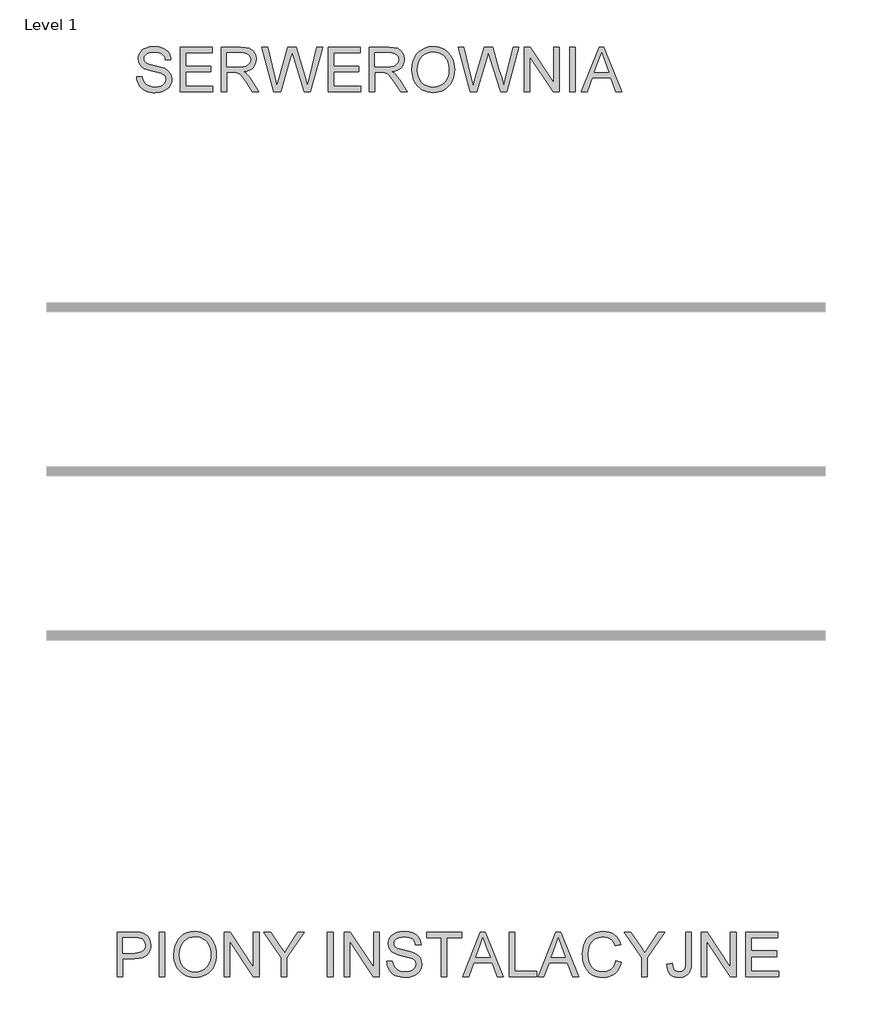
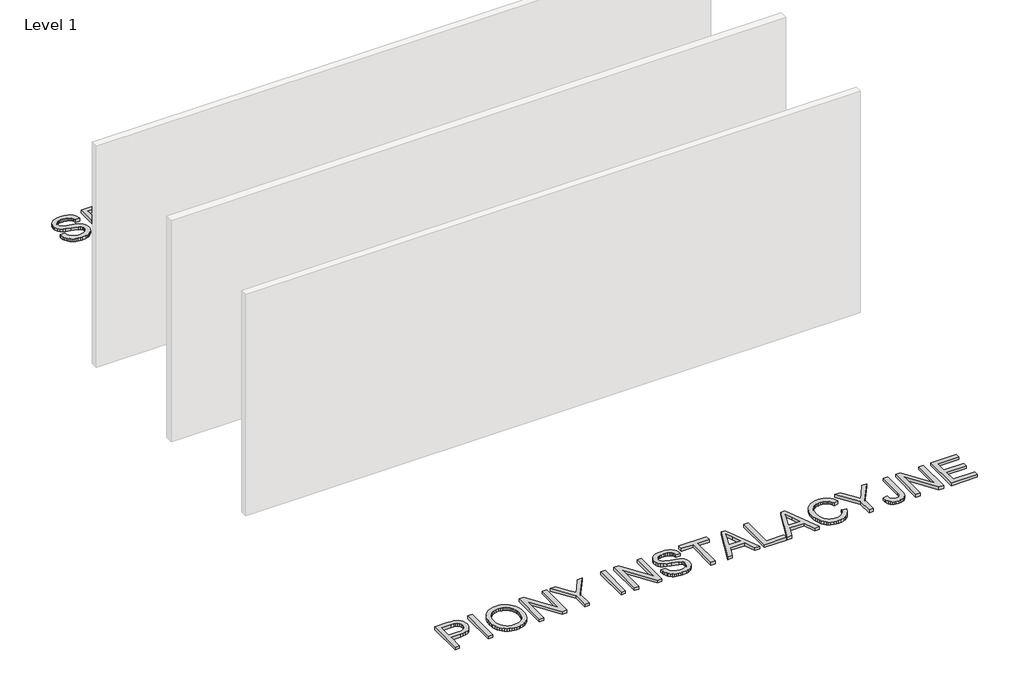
# One storey, part 2 of 4: 2 proxies.
"""IFC4 building model written with IfcOpenShell, lengths in millimetres."""

from ifc_helpers import new_model, si_unit, origin, origin_with_axes, place, context, project, spatial, polyline, outline, extrude, element, save

model = new_model("IFC4")

# Units and contexts
model_context = context("Model", 3, world=origin())
ifc_project = project(units=[si_unit("LENGTHUNIT", "METRE", prefix="MILLI")], contexts=[model_context])

# Site, building, storey
site = spatial("IfcSite", under=ifc_project)
building = spatial("IfcBuilding", under=site)
storey = spatial("IfcBuildingStorey", under=building, Name="Level 1", Elevation=0.0)

# Proxies
placement = place(None, origin())
element("IfcBuildingElementProxy", 1, Name="600mm Arial", ObjectType="600mm Arial", at=placement, inside=storey, context=model_context, shape_type="SweptSolid", body=[
    extrude(outline(polyline([(-1552.2464227, -16589.5897996), (-1476.9041901, -16589.5897996), (-1468.2589632, -16631.3995884), (-1452.6239784, -16665.0056087), (-1428.2334021, -16691.6770533), (-1393.3214008, -16712.6831152), (-1350.6470894, -16726.3131432), (-1302.9695828, -16730.8564858), (-1260.9942471, -16727.4167891), (-1224.2428358, -16717.0976992), (-1194.4627883, -16700.7637386), (-1173.4015441, -16679.2794301), (-1160.8751622, -16654.6129423), (-1156.6997015, -16628.7324439), (-1159.8266985, -16603.5141332), (-1169.2076893, -16581.7171249), (-1188.2639767, -16563.1206901), (-1220.4168631, -16547.5040994), (-1330.119274, -16518.7357274), (-1402.1321746, -16499.6978341), (-1448.2093945, -16481.5796459), (-1485.7149639, -16456.2325764), (-1512.294438, -16425.5144298), (-1528.1317579, -16390.0873937), (-1533.4108646, -16350.6136556), (-1531.7783882, -16328.1774524), (-1526.8809592, -16306.4862103), (-1518.7185774, -16285.5399292), (-1507.2912429, -16265.3386091), (-1492.7277144, -16246.705386), (-1475.1567506, -16230.463396), (-1454.5783515, -16216.6126388), (-1430.9925171, -16205.1531147), (-1377.9807216, -16189.7572532), (-1319.3035434, -16184.6252994), (-1255.7335346, -16189.9963765), (-1200.1097769, -16206.1096079), (-1175.774383, -16218.111758), (-1154.4188331, -16232.6338997), (-1136.0431275, -16249.6760332), (-1120.647266, -16269.2381582), (-1108.3508103, -16290.7500579), (-1099.2733221, -16313.6415151), (-1093.4148013, -16337.9125297), (-1090.775248, -16363.5631018), (-1166.1174806, -16363.5631018), (-1171.1574639, -16339.5220134), (-1179.9498436, -16318.607922), (-1192.4946196, -16300.8208275), (-1208.791792, -16286.16073), (-1229.1448634, -16274.7012059), (-1253.8573364, -16266.5158315), (-1282.9292111, -16261.6046068), (-1316.3604874, -16259.967532), (-1350.8586215, -16261.5862127), (-1380.3351664, -16266.4422551), (-1404.790122, -16274.535659), (-1424.2234884, -16285.8664244), (-1439.0307387, -16299.4872553), (-1449.6073461, -16314.4508555), (-1455.9533105, -16330.7572249), (-1458.068632, -16348.4063636), (-1456.5695128, -16363.590693), (-1452.0721554, -16377.3586766), (-1444.5765598, -16389.7103146), (-1434.0827259, -16400.6456069), (-1417.5648243, -16411.0014851), (-1391.5555672, -16421.4677278), (-1311.0629867, -16442.7313072), (-1227.9952322, -16462.9280287), (-1177.7425516, -16480.5495763), (-1134.7923287, -16507.8832085), (-1118.1870551, -16523.9504547), (-1104.8283402, -16541.6179875), (-1094.559834, -16560.7938365), (-1087.2251867, -16581.3860312), (-1081.3574689, -16626.8194576), (-1083.0451275, -16650.3868979), (-1088.1081035, -16673.2645594), (-1096.5463968, -16695.4524423), (-1108.3600073, -16716.9505464), (-1123.3420016, -16736.9265387), (-1141.2854459, -16754.5480863), (-1162.1903403, -16769.8151891), (-1186.0566847, -16782.7278471), (-1212.190102, -16792.9963533), (-1239.8962147, -16800.3310006), (-1300.0265268, -16806.1987184), (-1338.5667643, -16804.6168258), (-1373.8420492, -16799.8711481), (-1405.8523813, -16791.9616852), (-1434.5977607, -16780.8884371), (-1460.2529313, -16766.6330098), (-1482.9926371, -16749.1770092), (-1502.8168781, -16728.5204351), (-1519.7256543, -16704.6632877), (-1533.3464852, -16678.3781192), (-1543.3068902, -16650.4374816), (-1549.6068694, -16620.8413751), (-1552.2464227, -16589.5897996)])), origin_with_axes(), (0.0, 0.0, 1.0), 50.0),
    extrude(outline(polyline([(-968.34412, -16796.7809393), (-968.34412, -16194.0430784), (-535.1262825, -16194.0430784), (-535.1262825, -16269.385311), (-893.0018874, -16269.385311), (-893.0018874, -16448.3231135), (-553.9618406, -16448.3231135), (-553.9618406, -16523.6653461), (-893.0018874, -16523.6653461), (-893.0018874, -16721.4387067), (-525.7085034, -16721.4387067), (-525.7085034, -16796.7809393), (-968.34412, -16796.7809393)])), origin_with_axes(), (0.0, 0.0, 1.0), 50.0),
    extrude(outline(polyline([(-412.6951545, -16796.7809393), (-412.6951545, -16194.0430784), (-152.9704659, -16194.0430784), (-83.1648573, -16198.1081745), (-32.3787478, -16210.3034626), (-12.7798346, -16219.9971532), (4.7405455, -16232.8178407), (20.1823922, -16248.7655252), (33.5457057, -16267.8402067), (44.3292467, -16289.016414), (52.0317759, -16311.2686762), (56.6532935, -16334.5969932), (58.1937994, -16359.0013651), (55.641618, -16389.958635), (47.985074, -16418.3775191), (35.2241673, -16444.2580174), (17.3588979, -16467.60013), (-5.8406604, -16487.6588958), (-34.6044339, -16503.6893538), (-68.9324226, -16515.6915039), (-108.8246264, -16523.6653461), (-83.9925918, -16539.8889421), (-66.0031622, -16555.8918089), (-35.1378628, -16592.4960674), (-4.934751, -16633.4413335), (95.5706101, -16796.7809393), (8.0146952, -16796.7809393), (-70.4177461, -16671.8482138), (-127.0715734, -16589.1483413), (-148.1328176, -16565.0336765), (-166.8764053, -16550.0792734), (-202.7081116, -16535.7318756), (-246.4124926, -16533.0831252), (-337.3529218, -16533.0831252), (-337.3529218, -16796.7809393), (-412.6951545, -16796.7809393)]), holes=[polyline([(-337.3529218, -16457.7408926), (-168.7158153, -16457.7408926), (-120.2841506, -16455.0737481), (-82.7050048, -16447.0723147), (-54.4148794, -16433.2031635), (-33.8502758, -16412.9328656), (-21.3238939, -16388.4135306), (-17.1484332, -16361.7972682), (-19.1395945, -16342.5294487), (-25.1130784, -16325.0458569), (-35.0688849, -16309.3464928), (-49.007014, -16295.4313563), (-67.2493625, -16284.0362115), (-90.117827, -16275.8968224), (-117.6124076, -16271.0131889), (-149.7331043, -16269.385311), (-337.3529218, -16269.385311), (-337.3529218, -16457.7408926)])]), origin_with_axes(), (0.0, 0.0, 1.0), 50.0),
    extrude(outline(polyline([(297.9057074, -16796.7809393), (133.536032, -16194.0430784), (211.2327094, -16194.0430784), (306.5877225, -16590.1784108), (336.0182821, -16712.462386), (367.5089809, -16604.3050795), (486.9970529, -16194.0430784), (598.9803323, -16194.0430784), (685.8004831, -16491.4388833), (722.9933529, -16601.8034819), (750.4005615, -16712.462386), (778.9482043, -16593.710078), (875.1861343, -16194.0430784), (952.8828116, -16194.0430784), (788.3659834, -16796.7809393), (707.8734028, -16796.7809393), (563.3693551, -16331.7780974), (543.2094218, -16266.8837135), (520.5478909, -16345.0218493), (388.8461366, -16796.7809393), (297.9057074, -16796.7809393)])), origin_with_axes(), (0.0, 0.0, 1.0), 50.0),
    extrude(outline(polyline([(1028.2250442, -16796.7809393), (1028.2250442, -16194.0430784), (1461.4428818, -16194.0430784), (1461.4428818, -16269.385311), (1103.5672769, -16269.385311), (1103.5672769, -16448.3231135), (1442.6073236, -16448.3231135), (1442.6073236, -16523.6653461), (1103.5672769, -16523.6653461), (1103.5672769, -16721.4387067), (1470.8606608, -16721.4387067), (1470.8606608, -16796.7809393), (1028.2250442, -16796.7809393)])), origin_with_axes(), (0.0, 0.0, 1.0), 50.0),
    extrude(outline(polyline([(1583.8740098, -16796.7809393), (1583.8740098, -16194.0430784), (1843.5986984, -16194.0430784), (1913.4043069, -16198.1081745), (1964.1904164, -16210.3034626), (1983.7893297, -16219.9971532), (2001.3097097, -16232.8178407), (2016.7515564, -16248.7655252), (2030.1148699, -16267.8402067), (2040.8984109, -16289.016414), (2048.6009402, -16311.2686762), (2053.2224577, -16334.5969932), (2054.7629636, -16359.0013651), (2052.2107822, -16389.958635), (2044.5542382, -16418.3775191), (2031.7933315, -16444.2580174), (2013.9280621, -16467.60013), (1990.7285038, -16487.6588958), (1961.9647303, -16503.6893538), (1927.6367416, -16515.6915039), (1887.7445378, -16523.6653461), (1912.5765725, -16539.8889421), (1930.566002, -16555.8918089), (1961.4313014, -16592.4960674), (1991.6344132, -16633.4413335), (2092.1397743, -16796.7809393), (2004.5838594, -16796.7809393), (1926.1514181, -16671.8482138), (1869.4975908, -16589.1483413), (1848.4363466, -16565.0336765), (1829.6927589, -16550.0792734), (1793.8610526, -16535.7318756), (1750.1566716, -16533.0831252), (1659.2162424, -16533.0831252), (1659.2162424, -16796.7809393), (1583.8740098, -16796.7809393)]), holes=[polyline([(1659.2162424, -16457.7408926), (1827.853349, -16457.7408926), (1876.2850136, -16455.0737481), (1913.8641594, -16447.0723147), (1942.1542849, -16433.2031635), (1962.7188884, -16412.9328656), (1975.2452703, -16388.4135306), (1979.420731, -16361.7972682), (1977.4295697, -16342.5294487), (1971.4560858, -16325.0458569), (1961.5002793, -16309.3464928), (1947.5621502, -16295.4313563), (1929.3198018, -16284.0362115), (1906.4513372, -16275.8968224), (1878.9567566, -16271.0131889), (1846.8360599, -16269.385311), (1659.2162424, -16269.385311), (1659.2162424, -16457.7408926)])]), origin_with_axes(), (0.0, 0.0, 1.0), 50.0),
    extrude(outline(polyline([(2158.3585334, -16503.35826), (2163.3801227, -16432.6605376), (2178.4448904, -16370.0746131), (2203.5528365, -16315.6004867), (2219.8730016, -16291.4053477), (2238.7039612, -16269.2381582), (2281.7921399, -16232.2200325), (2330.7112482, -16205.7785141), (2385.4612861, -16189.913603), (2446.0422537, -16184.6252994), (2486.5920466, -16187.1085028), (2525.1000944, -16194.5581132), (2561.5663972, -16206.9741306), (2595.9909549, -16224.3565548), (2627.4080773, -16246.1811542), (2654.8520741, -16271.9236968), (2678.3229454, -16301.5841827), (2697.8206912, -16335.1626118), (2713.1429763, -16371.895629), (2724.0874656, -16411.0198792), (2730.6541592, -16452.5353623), (2732.8430571, -16496.4420785), (2730.5391961, -16540.9282087), (2723.6276131, -16583.0047119), (2712.1083081, -16622.6715881), (2695.9812812, -16659.9288371), (2675.6282098, -16693.7923748), (2651.4307716, -16723.2781167), (2623.3889665, -16748.3860629), (2591.5027946, -16769.1162133), (2557.0276531, -16785.3398093), (2521.2189394, -16796.9280921), (2484.0766534, -16803.8810618), (2445.6007953, -16806.1987184), (2404.3428295, -16803.63734), (2365.3289439, -16795.9532048), (2328.5591385, -16783.1463129), (2294.0334133, -16765.2166641), (2262.6530791, -16742.8586359), (2235.3194468, -16716.7666054), (2212.0325165, -16686.9405726), (2192.7922882, -16653.3805376), (2177.7275205, -16617.4338682), (2166.9669721, -16580.4479321), (2160.5106431, -16542.4227293), (2158.3585334, -16503.35826)]), holes=[polyline([(2233.700766, -16504.094024), (2237.466958, -16554.0432019), (2248.7655337, -16598.3821793), (2267.5964934, -16637.1109564), (2293.9598369, -16670.229533), (2326.0069572, -16696.7538248), (2361.8892473, -16715.6997476), (2401.6067072, -16727.0673012), (2445.1593369, -16730.8564858), (2489.4569276, -16727.030513), (2529.6434371, -16715.5525948), (2565.7188652, -16696.422731), (2597.6832121, -16669.6409218), (2623.8534175, -16635.8233694), (2642.5464214, -16595.5862762), (2653.7622237, -16548.9296421), (2657.5008245, -16495.8534673), (2655.9005378, -16461.3737273), (2651.0996778, -16429.1564615), (2643.0982444, -16399.2016701), (2631.8962376, -16371.5093529), (2617.6178177, -16346.4427935), (2600.3871447, -16324.3652752), (2580.2042188, -16305.2767982), (2557.0690398, -16289.1773624), (2531.6989777, -16276.3980616), (2504.8114024, -16267.2699896), (2476.4063138, -16261.7931464), (2446.4837121, -16259.967532), (2404.4439971, -16263.4854035), (2365.4393085, -16274.0390183), (2329.4696464, -16291.6283762), (2296.5350108, -16316.2534772), (2269.0450287, -16349.1007409), (2249.4093272, -16391.3565865), (2237.6279063, -16443.0210142), (2233.700766, -16504.094024)])]), origin_with_axes(), (0.0, 0.0, 1.0), 50.0),
    extrude(outline(polyline([(2944.3016279, -16796.7809393), (2779.9319525, -16194.0430784), (2857.6286299, -16194.0430784), (2952.983643, -16590.1784108), (2982.4142026, -16712.462386), (3013.9049014, -16604.3050795), (3133.3929734, -16194.0430784), (3245.3762528, -16194.0430784), (3332.1964036, -16491.4388833), (3369.3892734, -16601.8034819), (3396.796482, -16712.462386), (3425.3441248, -16593.710078), (3521.5820548, -16194.0430784), (3599.2787321, -16194.0430784), (3434.7619039, -16796.7809393), (3354.2693234, -16796.7809393), (3209.7652756, -16331.7780974), (3189.6053423, -16266.8837135), (3166.9438114, -16345.0218493), (3035.2420571, -16796.7809393), (2944.3016279, -16796.7809393)])), origin_with_axes(), (0.0, 0.0, 1.0), 50.0),
    extrude(outline(polyline([(3674.6209648, -16796.7809393), (3674.6209648, -16194.0430784), (3755.2606981, -16194.0430784), (4070.167686, -16671.5539082), (4070.167686, -16194.0430784), (4145.5099186, -16194.0430784), (4145.5099186, -16796.7809393), (4064.8701852, -16796.7809393), (3749.9631974, -16319.1229568), (3749.9631974, -16796.7809393), (3674.6209648, -16796.7809393)])), origin_with_axes(), (0.0, 0.0, 1.0), 50.0),
    extrude(outline(polyline([(4286.7766047, -16796.7809393), (4286.7766047, -16194.0430784), (4362.1188373, -16194.0430784), (4362.1188373, -16796.7809393), (4286.7766047, -16796.7809393)])), origin_with_axes(), (0.0, 0.0, 1.0), 50.0),
    extrude(outline(polyline([(4442.6114179, -16796.7809393), (4683.2062427, -16194.0430784), (4747.3648627, -16194.0430784), (4987.9596875, -16796.7809393), (4908.3500238, -16796.7809393), (4839.3353615, -16608.4253578), (4591.0885911, -16608.4253578), (4522.2210816, -16796.7809393), (4442.6114179, -16796.7809393)]), holes=[polyline([(4618.7533172, -16533.0831252), (4811.8177882, -16533.0831252), (4757.5184058, -16384.9002575), (4715.2855527, -16269.385311), (4677.7615892, -16371.9508113), (4618.7533172, -16533.0831252)])]), origin_with_axes(), (0.0, 0.0, 1.0), 50.0),
])
element("IfcBuildingElementProxy", 2, Name="600mm Arial", ObjectType="600mm Arial", at=placement, inside=storey, context=model_context, shape_type="SweptSolid", body=[
    extrude(outline(polyline([(-1815.0492814, -28728.2733251), (-1815.0492814, -28125.5354642), (-1591.6713339, -28125.5354642), (-1539.6528198, -28126.970204), (-1501.6138215, -28131.2744234), (-1461.4595017, -28141.9981835), (-1428.4053044, -28159.4541842), (-1401.7890421, -28184.4333717), (-1380.9485271, -28217.7266922), (-1367.484046, -28256.9980952), (-1362.9958857, -28299.91153), (-1366.0263136, -28336.9112616), (-1375.1175974, -28370.9495432), (-1390.2697371, -28402.0263748), (-1411.4827327, -28430.1417562), (-1440.6051911, -28453.4470806), (-1479.4857195, -28470.0937409), (-1528.1243178, -28480.0817371), (-1586.520986, -28483.4110691), (-1739.7070488, -28483.4110691), (-1739.7070488, -28728.2733251), (-1815.0492814, -28728.2733251)]), holes=[polyline([(-1739.7070488, -28408.0688365), (-1582.106402, -28408.0688365), (-1545.8700255, -28406.3397912), (-1515.2990317, -28401.152655), (-1490.3934206, -28392.5074281), (-1471.1531923, -28380.4041105), (-1456.7965974, -28365.1645988), (-1446.5418868, -28347.1107899), (-1440.3890604, -28326.2426838), (-1438.3381183, -28302.5602803), (-1443.1757665, -28268.7151368), (-1457.6887113, -28240.1674939), (-1480.0743307, -28218.6831854), (-1508.530003, -28206.0280448), (-1537.5926806, -28202.1652838), (-1583.8722356, -28200.8776969), (-1739.7070488, -28200.8776969), (-1739.7070488, -28408.0688365)])]), origin_with_axes(), (0.0, 0.0, 1.0), 50.0),
    extrude(outline(polyline([(-1249.9825368, -28728.2733251), (-1249.9825368, -28125.5354642), (-1174.6403042, -28125.5354642), (-1174.6403042, -28728.2733251), (-1249.9825368, -28728.2733251)])), origin_with_axes(), (0.0, 0.0, 1.0), 50.0),
    extrude(outline(polyline([(-1052.2091762, -28434.8506458), (-1047.1875869, -28364.1529234), (-1032.1228192, -28301.5669989), (-1007.0148731, -28247.0928725), (-990.6947081, -28222.8977335), (-971.8637484, -28200.7305441), (-928.7755697, -28163.7124183), (-879.8564614, -28137.2708999), (-825.1064235, -28121.4059888), (-764.5254559, -28116.1176852), (-723.975663, -28118.6008886), (-685.4676152, -28126.050499), (-649.0013124, -28138.4665164), (-614.5767547, -28155.8489406), (-583.1596323, -28177.67354), (-555.7156355, -28203.4160826), (-532.2447642, -28233.0765685), (-512.7470184, -28266.6549976), (-497.4247333, -28303.3880148), (-486.480244, -28342.512265), (-479.9135504, -28384.0277482), (-477.7246525, -28427.9344643), (-480.0285135, -28472.4205945), (-486.9400965, -28514.4970977), (-498.4594015, -28554.1639739), (-514.5864284, -28591.4212229), (-534.9394998, -28625.2847606), (-559.136938, -28654.7705025), (-587.1787431, -28679.8784487), (-619.064915, -28700.6085991), (-653.5400565, -28716.8321951), (-689.3487702, -28728.4204779), (-726.4910562, -28735.3734476), (-764.9669143, -28737.6911042), (-806.2248801, -28735.1297258), (-845.2387657, -28727.4455906), (-882.0085711, -28714.6386987), (-916.5342963, -28696.70905), (-947.9146305, -28674.3510217), (-975.2482628, -28648.2589912), (-998.5351931, -28618.4329584), (-1017.7754214, -28584.8729234), (-1032.8401891, -28548.926254), (-1043.6007375, -28511.9403179), (-1050.0570665, -28473.9151151), (-1052.2091762, -28434.8506458)]), holes=[polyline([(-976.8669436, -28435.5864098), (-973.1007516, -28485.5355877), (-961.8021759, -28529.8745651), (-942.9712162, -28568.6033422), (-916.6078727, -28601.7219188), (-884.5607524, -28628.2462106), (-848.6784623, -28647.1921334), (-808.9610024, -28658.5596871), (-765.4083727, -28662.3488716), (-721.110782, -28658.5228989), (-680.9242725, -28647.0449806), (-644.8488444, -28627.9151169), (-612.8844975, -28601.1333076), (-586.7142921, -28567.3157552), (-568.0212882, -28527.078662), (-556.8054859, -28480.4220279), (-553.0668851, -28427.3458531), (-554.6671718, -28392.8661131), (-559.4680318, -28360.6488474), (-567.4694652, -28330.6940559), (-578.671472, -28303.0017387), (-592.9498919, -28277.9351793), (-610.1805649, -28255.857661), (-630.3634908, -28236.769184), (-653.4986698, -28220.6697482), (-678.8687319, -28207.8904474), (-705.7563072, -28198.7623754), (-734.1613958, -28193.2855322), (-764.0839975, -28191.4599178), (-806.1237125, -28194.9777894), (-845.1284011, -28205.5314041), (-881.0980632, -28223.120762), (-914.0326988, -28247.745863), (-941.5226809, -28280.5931267), (-961.1583824, -28322.8489724), (-972.9398033, -28374.5134001), (-976.8669436, -28435.5864098)])]), origin_with_axes(), (0.0, 0.0, 1.0), 50.0),
    extrude(outline(polyline([(-374.1290827, -28728.2733251), (-374.1290827, -28125.5354642), (-293.4893493, -28125.5354642), (21.4176386, -28603.046294), (21.4176386, -28125.5354642), (96.7598712, -28125.5354642), (96.7598712, -28728.2733251), (16.1201378, -28728.2733251), (-298.78685, -28250.6153426), (-298.78685, -28728.2733251), (-374.1290827, -28728.2733251)])), origin_with_axes(), (0.0, 0.0, 1.0), 50.0),
    extrude(outline(polyline([(398.1288016, -28728.2733251), (398.1288016, -28472.9632205), (162.6843247, -28125.5354642), (251.5646147, -28125.5354642), (377.2331043, -28311.0951426), (441.538877, -28405.7143918), (505.9918026, -28304.3261139), (620.0352211, -28125.5354642), (708.9155111, -28125.5354642), (473.4710342, -28472.9632205), (473.4710342, -28728.2733251), (398.1288016, -28728.2733251)])), origin_with_axes(), (0.0, 0.0, 1.0), 50.0),
    extrude(outline(polyline([(1019.7022207, -28728.2733251), (1019.7022207, -28125.5354642), (1095.0444533, -28125.5354642), (1095.0444533, -28728.2733251), (1019.7022207, -28728.2733251)])), origin_with_axes(), (0.0, 0.0, 1.0), 50.0),
    extrude(outline(polyline([(1245.7289185, -28728.2733251), (1245.7289185, -28125.5354642), (1326.3686518, -28125.5354642), (1641.2756397, -28603.046294), (1641.2756397, -28125.5354642), (1716.6178723, -28125.5354642), (1716.6178723, -28728.2733251), (1635.978139, -28728.2733251), (1321.0711511, -28250.6153426), (1321.0711511, -28728.2733251), (1245.7289185, -28728.2733251)])), origin_with_axes(), (0.0, 0.0, 1.0), 50.0),
    extrude(outline(polyline([(1820.2134422, -28521.0821855), (1895.5556748, -28521.0821855), (1904.2009017, -28562.8919742), (1919.8358865, -28596.4979945), (1944.2264627, -28623.1694391), (1979.1384641, -28644.175501), (2021.8127755, -28657.805529), (2069.4902821, -28662.3488716), (2111.4656178, -28658.9091749), (2148.2170291, -28648.590085), (2177.9970766, -28632.2561244), (2199.0583208, -28610.7718159), (2211.5847027, -28586.1053281), (2215.7601634, -28560.2248297), (2212.6331664, -28535.006519), (2203.2521755, -28513.2095108), (2184.1958882, -28494.6130759), (2152.0430018, -28478.9964852), (2042.3405909, -28450.2281132), (1970.3276903, -28431.1902199), (1924.2504704, -28413.0720317), (1886.744901, -28387.7249622), (1860.1654268, -28357.0068156), (1844.328107, -28321.5797795), (1839.0490003, -28282.1060414), (1840.6814767, -28259.6698382), (1845.5789057, -28237.9785961), (1853.7412875, -28217.032315), (1865.168622, -28196.8309949), (1879.7321505, -28178.1977719), (1897.3031143, -28161.9557818), (1917.8815134, -28148.1050246), (1941.4673478, -28136.6455005), (1994.4791433, -28121.249639), (2053.1563215, -28116.1176852), (2116.7263303, -28121.4887623), (2172.350088, -28137.6019937), (2196.6854819, -28149.6041438), (2218.0410318, -28164.1262855), (2236.4167374, -28181.168419), (2251.8125989, -28200.7305441), (2264.1090546, -28222.2424437), (2273.1865428, -28245.1339009), (2279.0450636, -28269.4049155), (2281.6846169, -28295.0554876), (2206.3423843, -28295.0554876), (2201.302401, -28271.0143992), (2192.5100213, -28250.1003078), (2179.9652453, -28232.3132133), (2163.6680729, -28217.6531158), (2143.3150015, -28206.1935917), (2118.6025285, -28198.0082173), (2089.5306538, -28193.0969927), (2056.0993775, -28191.4599178), (2021.6012434, -28193.0785986), (1992.1246985, -28197.9346409), (1967.6697429, -28206.0280448), (1948.2363765, -28217.3588102), (1933.4291262, -28230.9796411), (1922.8525188, -28245.9432413), (1916.5065544, -28262.2496107), (1914.3912329, -28279.8987494), (1915.8903521, -28295.0830788), (1920.3877095, -28308.8510624), (1927.8833051, -28321.2027004), (1938.377139, -28332.1379927), (1954.8950406, -28342.4938709), (1980.9042977, -28352.9601137), (2061.3968782, -28374.223693), (2144.4646327, -28394.4204145), (2194.7173133, -28412.0419621), (2237.6675362, -28439.3755943), (2254.2728098, -28455.4428405), (2267.6315247, -28473.1103733), (2277.9000309, -28492.2862223), (2285.2346782, -28512.878417), (2291.102396, -28558.3118434), (2289.4147373, -28581.8792837), (2284.3517614, -28604.7569453), (2275.9134681, -28626.9448281), (2264.0998576, -28648.4429322), (2249.1178633, -28668.4189245), (2231.174419, -28686.0404721), (2210.2695246, -28701.3075749), (2186.4031802, -28714.2202329), (2160.2697629, -28724.4887391), (2132.5636502, -28731.8233864), (2072.4333381, -28737.6911042), (2033.8931005, -28736.1092116), (1998.6178157, -28731.3635339), (1966.6074836, -28723.454071), (1937.8621042, -28712.3808229), (1912.2069336, -28698.1253956), (1889.4672278, -28680.669395), (1869.6429867, -28660.0128209), (1852.7342105, -28636.1556735), (1839.1133797, -28609.870505), (1829.1529747, -28581.9298675), (1822.8529955, -28552.3337609), (1820.2134422, -28521.0821855)])), origin_with_axes(), (0.0, 0.0, 1.0), 50.0),
    extrude(outline(polyline([(2554.8002101, -28728.2733251), (2554.8002101, -28200.8776969), (2357.0268495, -28200.8776969), (2357.0268495, -28125.5354642), (2827.9158034, -28125.5354642), (2827.9158034, -28200.8776969), (2630.1424428, -28200.8776969), (2630.1424428, -28728.2733251), (2554.8002101, -28728.2733251)])), origin_with_axes(), (0.0, 0.0, 1.0), 50.0),
    extrude(outline(polyline([(2842.4839304, -28728.2733251), (3083.0787552, -28125.5354642), (3147.2373752, -28125.5354642), (3387.8322, -28728.2733251), (3308.2225363, -28728.2733251), (3239.207874, -28539.9177436), (2990.9611036, -28539.9177436), (2922.0935941, -28728.2733251), (2842.4839304, -28728.2733251)]), holes=[polyline([(3018.6258297, -28464.575511), (3211.6903007, -28464.575511), (3157.3909182, -28316.3926433), (3115.1580652, -28200.8776969), (3077.6341017, -28303.4431971), (3018.6258297, -28464.575511)])]), origin_with_axes(), (0.0, 0.0, 1.0), 50.0),
    extrude(outline(polyline([(3468.3247806, -28728.2733251), (3468.3247806, -28125.5354642), (3543.6670132, -28125.5354642), (3543.6670132, -28652.9310925), (3845.0359436, -28652.9310925), (3845.0359436, -28728.2733251), (3468.3247806, -28728.2733251)])), origin_with_axes(), (0.0, 0.0, 1.0), 50.0),
    extrude(outline(polyline([(3859.6040706, -28728.2733251), (4100.1988955, -28125.5354642), (4164.3575154, -28125.5354642), (4404.9523403, -28728.2733251), (4325.3426765, -28728.2733251), (4256.3280142, -28539.9177436), (4008.0812439, -28539.9177436), (3939.2137344, -28728.2733251), (3859.6040706, -28728.2733251)]), holes=[polyline([(4035.7459699, -28464.575511), (4228.810441, -28464.575511), (4174.5110585, -28316.3926433), (4132.2782055, -28200.8776969), (4094.754242, -28303.4431971), (4035.7459699, -28464.575511)])]), origin_with_axes(), (0.0, 0.0, 1.0), 50.0),
    extrude(outline(polyline([(4909.2449793, -28514.0188511), (4984.5872119, -28533.4430205), (4969.678794, -28580.2973911), (4949.8223633, -28621.2380586), (4925.0179198, -28656.2650231), (4895.2654635, -28685.3782845), (4861.2363789, -28708.2651431), (4823.6020508, -28724.6128993), (4782.3624791, -28734.421553), (4737.5176639, -28737.6911042), (4691.5738013, -28735.2170978), (4650.127296, -28727.7950785), (4613.1781481, -28715.4250465), (4580.7263576, -28698.1070015), (4552.3258676, -28676.0984612), (4527.5306211, -28649.6569428), (4506.3406182, -28618.7824463), (4488.7558588, -28583.4749718), (4474.9464884, -28545.2612296), (4465.0826524, -28505.6679299), (4459.1643508, -28464.6950726), (4457.1915836, -28422.3426579), (4459.4218682, -28376.9000345), (4466.112722, -28334.4556493), (4477.264145, -28295.0095024), (4492.8761371, -28258.5615937), (4512.5992106, -28225.7143301), (4536.0838775, -28197.0701182), (4563.3301377, -28172.6289581), (4594.3379914, -28152.3908499), (4628.0543763, -28136.5213403), (4663.4262301, -28125.1859763), (4700.4535529, -28118.384758), (4739.1363447, -28116.1176852), (4782.2291219, -28119.0515441), (4821.7442467, -28127.8531208), (4857.6817191, -28142.5224154), (4890.0415391, -28163.0594277), (4918.2902778, -28188.921532), (4941.8945063, -28219.5661022), (4960.8542247, -28254.9931383), (4975.1694328, -28295.2026404), (4899.8272002, -28313.1552818), (4887.9630059, -28283.5269856), (4873.7075785, -28258.2121058), (4857.0609183, -28237.2106424), (4838.023025, -28220.5225954), (4816.4835342, -28207.8076739), (4792.3320812, -28198.7255872), (4765.5686661, -28193.2763351), (4736.1932887, -28191.4599178), (4702.3941304, -28193.4740717), (4671.4828458, -28199.5165335), (4643.4594348, -28209.5873031), (4618.3238975, -28223.6863806), (4596.393532, -28241.1791694), (4577.9856367, -28261.4310733), (4563.1002115, -28284.4420921), (4551.7372564, -28310.2122258), (4537.3346762, -28365.3577369), (4532.5338162, -28422.1955052), (4538.217593, -28491.7987786), (4545.3223141, -28523.0687482), (4555.2689235, -28551.984273), (4568.2183697, -28577.9705375), (4584.3316011, -28600.4527259), (4603.6086177, -28619.4308383), (4626.0494194, -28634.9048748), (4650.5641558, -28646.9116234), (4676.0629766, -28655.4878724), (4702.5458818, -28660.6336218), (4730.0128712, -28662.3488716), (4762.7681644, -28660.0128209), (4792.9022983, -28653.0046689), (4820.415273, -28641.3244156), (4845.3070885, -28624.9720609), (4866.9891336, -28604.0211813), (4884.8727971, -28578.5453531), (4898.958079, -28548.5445764), (4909.2449793, -28514.0188511)])), origin_with_axes(), (0.0, 0.0, 1.0), 50.0),
    extrude(outline(polyline([(5257.7028051, -28728.2733251), (5257.7028051, -28472.9632205), (5022.2583282, -28125.5354642), (5111.1386182, -28125.5354642), (5236.8071078, -28311.0951426), (5301.1128805, -28405.7143918), (5365.5658061, -28304.3261139), (5479.6092246, -28125.5354642), (5568.4895146, -28125.5354642), (5333.0450377, -28472.9632205), (5333.0450377, -28728.2733251), (5257.7028051, -28728.2733251)])), origin_with_axes(), (0.0, 0.0, 1.0), 50.0),
    extrude(outline(polyline([(5596.7428519, -28559.0476074), (5672.0850845, -28549.3355227), (5674.7430319, -28579.2903141), (5679.920971, -28604.1131518), (5687.6189017, -28623.8040356), (5697.8368241, -28638.3629655), (5710.4183884, -28648.8567994), (5725.2072446, -28656.3523951), (5742.2033928, -28660.8497525), (5761.4068329, -28662.3488716), (5789.2371058, -28658.9459631), (5812.9838886, -28648.7372378), (5831.304412, -28632.6607946), (5842.8559066, -28611.6547327), (5848.9811419, -28581.2492858), (5851.0228869, -28536.9746876), (5851.0228869, -28125.5354642), (5926.3651195, -28125.5354642), (5926.3651195, -28535.6503125), (5921.8217769, -28602.7335943), (5916.1425986, -28629.8602929), (5908.191749, -28652.7103633), (5897.7714915, -28672.1943135), (5884.6840895, -28689.2226514), (5868.929543, -28703.7953769), (5850.5078521, -28715.9124901), (5807.5944174, -28732.2464507), (5757.8751657, -28737.6911042), (5720.7466754, -28734.8814055), (5688.2351041, -28726.4523093), (5660.3404518, -28712.4038156), (5637.0627185, -28692.7359244), (5618.8157716, -28667.5222122), (5606.0134781, -28636.8362552), (5598.6558382, -28600.6780536), (5596.7428519, -28559.0476074)])), origin_with_axes(), (0.0, 0.0, 1.0), 50.0),
    extrude(outline(polyline([(6058.2140266, -28728.2733251), (6058.2140266, -28125.5354642), (6138.85376, -28125.5354642), (6453.7607478, -28603.046294), (6453.7607478, -28125.5354642), (6529.1029804, -28125.5354642), (6529.1029804, -28728.2733251), (6448.4632471, -28728.2733251), (6133.5562592, -28250.6153426), (6133.5562592, -28728.2733251), (6058.2140266, -28728.2733251)])), origin_with_axes(), (0.0, 0.0, 1.0), 50.0),
    extrude(outline(polyline([(6660.9518875, -28728.2733251), (6660.9518875, -28125.5354642), (7094.169725, -28125.5354642), (7094.169725, -28200.8776969), (6736.2941201, -28200.8776969), (6736.2941201, -28379.8154993), (7075.3341669, -28379.8154993), (7075.3341669, -28455.1577319), (6736.2941201, -28455.1577319), (6736.2941201, -28652.9310925), (7103.5875041, -28652.9310925), (7103.5875041, -28728.2733251), (6660.9518875, -28728.2733251)])), origin_with_axes(), (0.0, 0.0, 1.0), 50.0),
])

save(model, "model.ifc")
